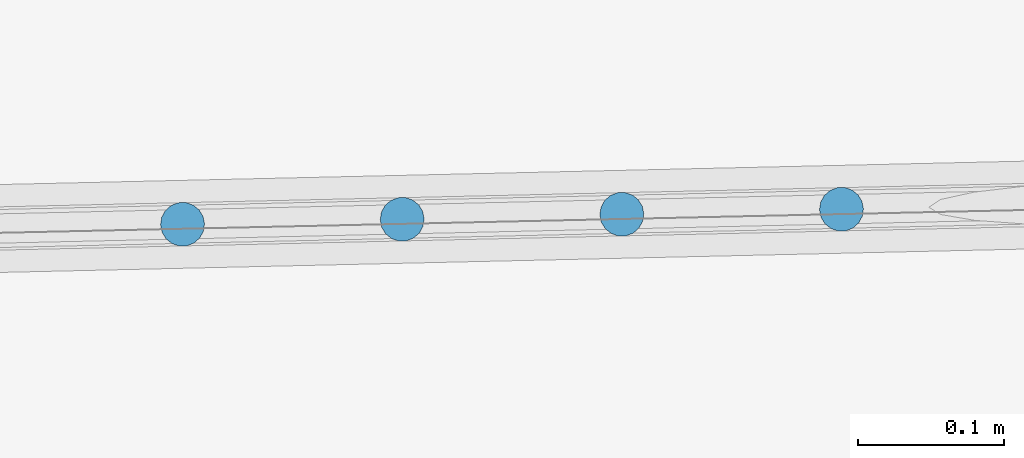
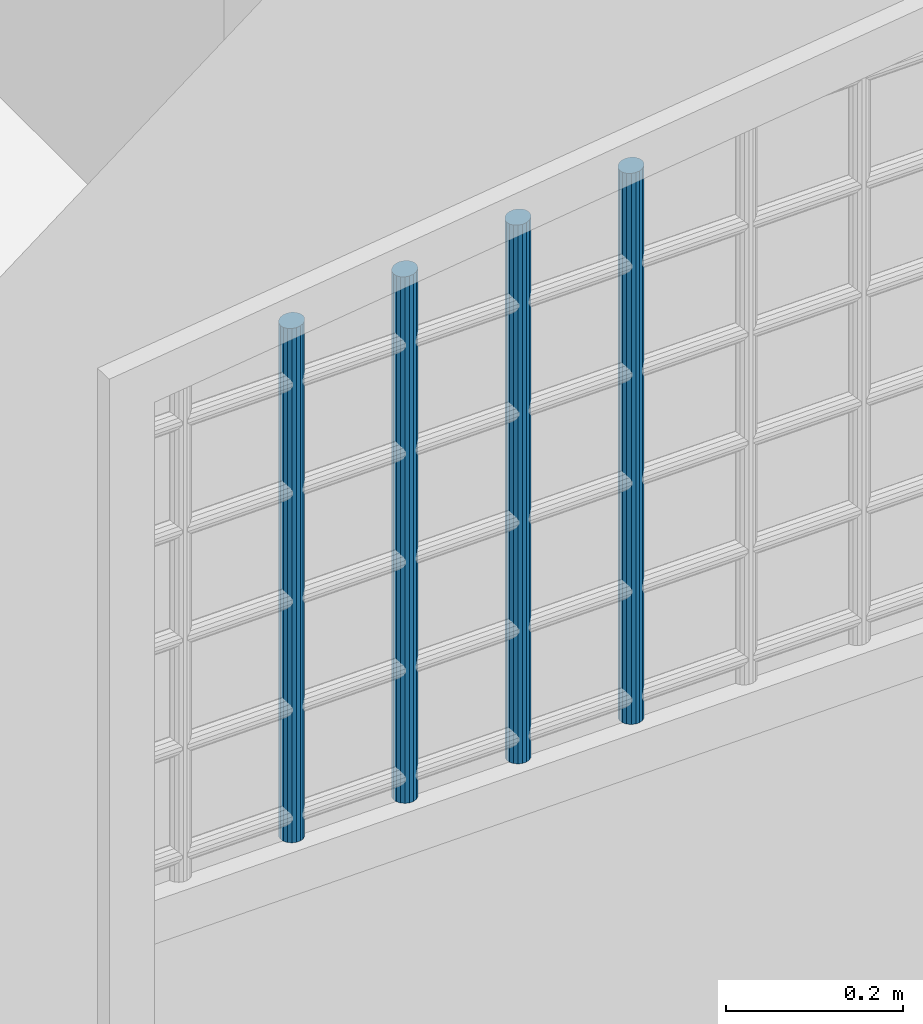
# One storey, part 59 of 133: 4 members, 1 element without a shape of its own.
"""IFC2X3 building model written with IfcOpenShell, lengths in centimetres."""

from ifc_helpers import new_model, entity, si_unit, converted_unit, direction, frame, origin, origin_with_axes, place, context, subcontext, project, spatial, faceted_brep, material, type_object, element, aggregate, save


model = new_model("IFC2X3")

# Units and contexts
model_context = context("Model", 3, precision=0.0001, world=origin(), true_north=direction((0.225632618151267, 0.974212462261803, 0.0)))
body_context = subcontext(model_context, "Body", "Model", "MODEL_VIEW")
ifc_project = project(units=[si_unit("LENGTHUNIT", "METRE", prefix="CENTI"), si_unit("AREAUNIT", "SQUARE_METRE", prefix="CENTI"), si_unit("VOLUMEUNIT", "CUBIC_METRE", prefix="CENTI"), converted_unit("PLANEANGLEUNIT", "DEGREE", entity("IfcRatioMeasure", 0.0174532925), si_unit("PLANEANGLEUNIT", "RADIAN"), dimensions=[0, 0, 0, 0, 0, 0, 0])], contexts=[model_context])

# Site, building, storey
site_placement = place(None, origin_with_axes())
site = spatial("IfcSite", under=ifc_project, at=site_placement, Name="Default Site", CompositionType="ELEMENT")
building_placement = place(site_placement, origin_with_axes())
building = spatial("IfcBuilding", under=site, at=building_placement, Name="Default Building", CompositionType="ELEMENT")
storey_placement = place(building_placement, frame((0.0, 0.0, -291.400371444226), z_axis=(0.0, 0.0, 1.0), x_axis=(1.0, 0.0, 0.0)))
storey = spatial("IfcBuildingStorey", under=building, at=storey_placement, Name="Rez-de-Jardin", CompositionType="ELEMENT", Elevation=-291.400371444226)

# Assembly, members
building_element_proxy_type = type_object("IfcBuildingElementProxyType", Name="Type Object", PredefinedType="NOTDEFINED")
assembly_placement = place(storey_placement, frame((230.29031879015, 209.448968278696, 0.0), z_axis=(0.0, 0.0, 1.0), x_axis=(-0.999739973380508, -0.0228031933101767, 0.0)))
assembly = element("IfcElementAssembly", 1, at=assembly_placement, inside=storey, type_object=building_element_proxy_type, Name="Panneau 76236", ObjectType="Precast panel", PredefinedType="USERDEFINED")
ifc_material = material(Name="Noyer 01")
member_1_placement = place(assembly_placement, frame((55.4095387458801, -2.48696978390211, 153.164994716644), z_axis=(0.112041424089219, 1.62055833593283e-05, 0.993703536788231), x_axis=(0.499207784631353, -0.864653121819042, -0.0562722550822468)))
member_1 = element("IfcMember", 2, at=member_1_placement, material=ifc_material, Name="4294966839", context=body_context, shape_type="Brep", body=[
    faceted_brep([(1.38777878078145e-14, 3.33066907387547e-14, 4.44089209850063e-14), (-0.521771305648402, 2.77555754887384e-14, 9.77919149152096e-06), (-1.01305486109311, -0.179018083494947, 1.89869725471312e-05), (-1.41459542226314, -0.51546324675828, 2.65127639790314e-05), (-1.67796013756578, -0.968753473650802, 3.14488230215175e-05), (-1.77138405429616, -1.48421651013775, 3.31998015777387e-05), (-1.68360087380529, -1.99968316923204, 3.15545433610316e-05), (-1.42519361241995, -2.45297224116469, 2.67113983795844e-05), (-1.02733397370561, -2.78941719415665, 1.92545958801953e-05), (-0.538007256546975, -2.96843356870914, 1.00834904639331e-05), (-0.016235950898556, -2.96843356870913, 3.04299016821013e-07), (0.475050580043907, -2.78941036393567, -8.90353780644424e-06), (0.876591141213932, -2.45296520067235, -1.64293292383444e-05), (1.13995585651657, -1.99967497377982, -2.13653882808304e-05), (1.23337977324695, -1.48421193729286, -2.31163668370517e-05), (1.14559361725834, -0.968750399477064, -2.14710528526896e-05), (0.88718635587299, -0.51546132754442, -1.66279078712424e-05), (0.489326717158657, -0.179016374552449, -9.17110537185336e-06), (4.77287782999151, 7.19605848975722, -75.6426165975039), (5.17131168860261, 6.86060218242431, -75.6527603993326), (5.43137117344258, 6.41015777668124, -75.6819513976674), (5.52168966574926, 5.8990562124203, -75.7266686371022), (5.43137230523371, 5.38894179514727, -75.7815188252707), (5.17131270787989, 4.94134205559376, -75.8398861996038), (4.7728787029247, 4.61024551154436, -75.8947306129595), (4.28412450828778, 4.43558228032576, -75.9394376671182), (3.76400542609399, 4.43842694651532, -75.9686140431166), (3.27525292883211, 4.61843196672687, -75.9787412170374), (2.87681907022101, 4.95388827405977, -75.9685974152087), (2.61675958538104, 5.40433267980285, -75.939406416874), (2.52644406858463, 5.91543936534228, -75.8946885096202), (2.61676142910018, 6.42555378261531, -75.8398383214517), (2.876821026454, 6.87315352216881, -75.7814709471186), (3.2752550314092, 7.20425006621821, -75.7266265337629), (3.76400625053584, 7.37890817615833, -75.6819201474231), (4.28412533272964, 7.37606350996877, -75.6527437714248), (0.489326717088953, -0.179016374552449, -1.28901694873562e-05), (0.887186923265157, -0.515460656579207, -1.65303586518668e-05), (5.17131225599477, 6.86060285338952, -75.6527603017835), (4.77287782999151, 7.19605848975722, -75.6426165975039), (0.88718635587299, -0.51546132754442, -1.66279078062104e-05), (1.14559364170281, -0.968750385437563, -3.1247480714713e-05), (5.43137119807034, 6.41015779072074, -75.6819513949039), (1.14559361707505, -0.968750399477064, -3.12502441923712e-05), (1.23337876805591, -1.48421210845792, -3.04068091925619e-05), (5.52168866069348, 5.89905604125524, -75.7266687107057), (1.23337977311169, -1.48421193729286, -3.03332056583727e-05), (1.13995558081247, -1.99967492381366, -2.23115505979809e-05), (5.43137202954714, 5.38894184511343, -75.7815188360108), (1.13995585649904, -1.99967497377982, -2.23008104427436e-05), (0.876591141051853, -2.45296520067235, -2.50772775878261e-05), (5.1713127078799, 4.94134205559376, -75.8398861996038), (0.87659114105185, -2.45296520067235, -2.50772775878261e-05), (0.475050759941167, -2.78941057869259, -1.12808181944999e-05), (4.77287888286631, 4.61024529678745, -75.8947306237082), (0.475050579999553, -2.78941036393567, -1.1270069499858e-05), (-0.0162369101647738, -2.96843093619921, 3.45904601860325e-08), (4.28412354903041, 4.43558491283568, -75.9394374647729), (-0.0162359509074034, -2.96843356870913, -1.67754898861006e-07), (-0.538007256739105, -2.96843354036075, -1.64990938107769e-07), (3.76400542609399, 4.43842697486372, -75.9686140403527), (-0.538007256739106, -2.96843356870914, -1.67754876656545e-07), (-1.02733367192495, -2.78941636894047, 1.28199687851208e-05), (3.2752532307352, 4.61843279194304, -75.9787411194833), (-1.02733397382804, -2.78941719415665, 1.27224146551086e-05), (-1.42519418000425, -2.45297291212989, 1.63626038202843e-05), (2.87681850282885, 4.95388760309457, -75.9685975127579), (-1.42519361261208, -2.45297224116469, 1.64601529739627e-05), (-1.68360089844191, -1.99968318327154, 3.10797258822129e-05), (2.61675956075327, 5.40433266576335, -75.9394064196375), (2.876819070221, 4.95388827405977, -75.9685974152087), (-1.68360087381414, -1.99968316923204, 3.10824893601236e-05), (-1.77138681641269, -1.48421698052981, 3.06309941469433e-05), (2.52644130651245, 5.91543889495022, -75.8946887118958), (-1.77138405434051, -1.48421651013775, 3.08332697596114e-05), (-1.67795986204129, -0.968753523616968, 2.28116146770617e-05), (2.61676170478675, 6.42555373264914, -75.8398383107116), (-1.67796013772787, -0.968753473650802, 2.28008745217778e-05), (-1.41459542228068, -0.515463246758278, 2.55773416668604e-05), (2.87682102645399, 6.87315352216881, -75.7814709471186), (-1.41459542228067, -0.51546324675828, 2.55773416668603e-05), (-1.01305504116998, -0.179017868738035, 1.17808822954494e-05), (3.27525485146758, 7.20425028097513, -75.7266265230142), (-1.01305486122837, -0.179018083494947, 1.17701336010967e-05), (-0.521771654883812, 9.57911027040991e-07, 7.36289799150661e-08), (3.76400590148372, 7.37890913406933, -75.6819200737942), (3.2752550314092, 7.20425006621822, -75.7266265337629), (-0.521771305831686, 2.77555756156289e-14, 6.66133814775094e-14), (1.23229485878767e-14, -2.8348356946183e-08, -2.76389412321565e-09), (4.28412533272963, 7.37606348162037, -75.6527437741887), (3.76400625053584, 7.37890817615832, -75.6819201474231), (0.489326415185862, -0.179017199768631, -1.29877236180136e-05), (4.77287752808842, 7.19605766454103, -75.6426166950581), (4.28412533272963, 7.37606350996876, -75.6527437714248)], [[[0, 1, 2, 3, 4, 5, 6, 7, 8, 9, 10, 11, 12, 13, 14, 15, 16, 17]], [[18, 19, 20, 21, 22, 23, 24, 25, 26, 27, 28, 29, 30, 31, 32, 33, 34, 35]], [[36, 37, 38, 39]], [[40, 41, 42, 19]], [[43, 44, 45, 20]], [[46, 47, 48, 21]], [[49, 50, 51, 22]], [[52, 53, 54, 23]], [[55, 56, 57, 24]], [[58, 59, 60, 25]], [[61, 62, 63, 26]], [[64, 65, 66, 27]], [[67, 68, 69, 70]], [[71, 72, 73, 29]], [[74, 75, 76, 30]], [[77, 78, 79, 31]], [[80, 81, 82, 32]], [[83, 84, 85, 86]], [[87, 88, 89, 90]], [[0, 91, 92, 93]]]),
])
member_2_placement = place(assembly_placement, frame((70.4095363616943, -2.48696978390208, 151.473581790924), z_axis=(0.112041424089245, 1.62055833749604e-05, 0.993703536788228), x_axis=(0.499207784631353, -0.864653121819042, -0.0562722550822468)))
member_2 = element("IfcMember", 3, at=member_2_placement, material=ifc_material, Name="4294966838", context=body_context, shape_type="Brep", body=[
    faceted_brep([(-1.11022302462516e-14, 6.66133814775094e-14, 4.44089209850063e-14), (-0.521771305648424, 6.66133812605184e-14, 9.7791914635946e-06), (-1.01305486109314, -0.179018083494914, 1.89869724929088e-05), (-1.41459542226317, -0.51546324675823, 2.65127639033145e-05), (-1.67796013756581, -0.968753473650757, 3.14488229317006e-05), (-1.77138405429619, -1.48421651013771, 3.31998014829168e-05), (-1.68359789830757, -1.99967804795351, 3.15544875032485e-05), (-1.42519063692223, -2.45296711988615, 2.67113425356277e-05), (-1.02733099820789, -2.78941207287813, 1.92545400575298e-05), (-0.538004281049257, -2.9684284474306, 1.00834346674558e-05), (-0.0162329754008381, -2.9684284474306, 3.04243248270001e-07), (0.47505058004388, -2.78941036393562, -8.90353778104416e-06), (0.876591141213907, -2.4529652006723, -1.642932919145e-05), (1.13995585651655, -1.99967497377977, -2.1365388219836e-05), (1.23337977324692, -1.48421193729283, -2.31163667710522e-05), (1.14559361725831, -0.968750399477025, -2.14710527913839e-05), (0.88718635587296, -0.515461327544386, -1.66279078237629e-05), (0.489326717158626, -0.179016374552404, -9.17110534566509e-06), (4.67769821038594, 7.03218585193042, -73.9618535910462), (5.07613206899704, 6.6967295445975, -73.9719973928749), (5.33619155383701, 6.24628513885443, -74.0011883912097), (5.4265100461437, 5.73518357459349, -74.0459056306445), (5.33619268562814, 5.22506915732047, -74.100755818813), (5.07613308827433, 4.77746941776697, -74.1591231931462), (4.67769908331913, 4.44637287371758, -74.2139676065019), (4.18894786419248, 4.27171476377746, -74.2586739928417), (3.66882878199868, 4.27455942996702, -74.28785036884), (3.18007628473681, 4.45456445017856, -74.2979775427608), (2.78164242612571, 4.79002075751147, -74.2878337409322), (2.52158294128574, 5.24046516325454, -74.2586427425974), (2.43126444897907, 5.75156672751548, -74.2139255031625), (2.52158180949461, 6.2616811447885, -74.159075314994), (2.78164140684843, 6.70928088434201, -74.1007079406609), (3.18007541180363, 7.0403774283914, -74.0458635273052), (3.66882663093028, 7.21503553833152, -74.0011571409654), (4.18894571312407, 7.21219087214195, -73.971980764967), (0.489326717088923, -0.179016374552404, -1.28901695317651e-05), (0.887186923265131, -0.515460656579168, -1.65303586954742e-05), (5.07613263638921, 6.69673021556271, -73.9719972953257), (4.67769821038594, 7.03218585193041, -73.9618535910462), (0.88718635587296, -0.515461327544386, -1.66279078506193e-05), (1.14559364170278, -0.968750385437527, -3.12474807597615e-05), (5.33619157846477, 6.24628515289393, -74.0011883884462), (1.14559361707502, -0.968750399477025, -3.12502442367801e-05), (1.23337876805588, -1.48421210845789, -3.04068092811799e-05), (5.42650904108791, 5.73518340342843, -74.045905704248), (1.23337977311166, -1.48421193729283, -3.03332057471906e-05), (1.13995558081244, -1.99967492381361, -2.23115506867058e-05), (5.33619240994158, 5.22506920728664, -74.1007558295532), (1.13995585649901, -1.99967497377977, -2.23008105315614e-05), (0.876591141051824, -2.4529652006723, -2.50772776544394e-05), (5.07613308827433, 4.77746941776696, -74.1591231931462), (5.33619268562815, 5.22506915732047, -74.100755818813), (0.876591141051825, -2.4529652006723, -2.50772776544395e-05), (0.475050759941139, -2.78941057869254, -1.12808183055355e-05), (4.67769926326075, 4.44637265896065, -74.2139676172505), (0.475050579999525, -2.78941036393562, -1.12700696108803e-05), (-0.0162326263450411, -2.9684294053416, 4.26435010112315e-07), (4.18894821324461, 4.27171380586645, -74.2586740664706), (4.67769908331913, 4.44637287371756, -74.2139676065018), (-0.0162329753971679, -2.9684284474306, 5.00063923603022e-07), (-0.538004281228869, -2.96842841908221, 5.02827840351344e-07), (3.66882878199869, 4.27455945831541, -74.2878503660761), (4.18894786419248, 4.27171476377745, -74.2586739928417), (-0.538004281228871, -2.9684284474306, 5.00063901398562e-07), (-1.02733069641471, -2.78941124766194, 1.34877875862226e-05), (3.1800765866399, 4.45456527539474, -74.2979774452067), (3.66882878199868, 4.27455942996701, -74.28785036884), (-1.0273309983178, -2.78941207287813, 1.33902334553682e-05), (-1.42519120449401, -2.45296779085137, 1.70304226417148e-05), (2.78164185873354, 4.79002008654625, -74.2878338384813), (3.18007628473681, 4.45456445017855, -74.2979775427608), (-1.42519063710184, -2.45296711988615, 1.71279717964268e-05), (-1.68359792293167, -1.99967806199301, 3.17475447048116e-05), (2.52158291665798, 5.24046514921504, -74.2586427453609), (-1.6835978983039, -1.99967804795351, 3.17503081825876e-05), (-1.77138304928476, -1.48421633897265, 3.090687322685e-05), (2.43126545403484, 5.75156689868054, -74.213925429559), (-1.77138405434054, -1.48421651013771, 3.0833269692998e-05), (-1.67795986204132, -0.968753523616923, 2.28116146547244e-05), (2.52158208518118, 6.26168109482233, -74.1590753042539), (2.43126444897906, 5.75156672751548, -74.2139255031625), (-1.67796013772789, -0.968753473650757, 2.28008744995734e-05), (-1.4145954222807, -0.515463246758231, 2.55773416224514e-05), (-1.4145954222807, -0.51546324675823, 2.55773416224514e-05), (-1.01305504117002, -0.179017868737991, 1.17808822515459e-05), (3.18007523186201, 7.04037764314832, -74.0458635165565), (-1.0130548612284, -0.179018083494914, 1.17701335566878e-05), (-0.521771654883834, 9.57911063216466e-07, 7.36289353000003e-08), (3.66882628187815, 7.21503649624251, -74.0011570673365), (-0.521771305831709, 6.66133814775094e-14, 2.22044604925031e-14), (-1.2657069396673e-14, -2.83483224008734e-08, -2.76389400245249e-09), (4.18894571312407, 7.21219084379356, -73.971980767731), (0.48932641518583, -0.179017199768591, -1.29877236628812e-05), (4.67769790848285, 7.03218502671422, -73.9618536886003)], [[[0, 1, 2, 3, 4, 5, 6, 7, 8, 9, 10, 11, 12, 13, 14, 15, 16, 17]], [[18, 19, 20, 21, 22, 23, 24, 25, 26, 27, 28, 29, 30, 31, 32, 33, 34, 35]], [[36, 37, 38, 39]], [[40, 41, 42, 19]], [[43, 44, 45, 20]], [[46, 47, 48, 21]], [[49, 50, 51, 52]], [[53, 54, 55, 51]], [[56, 57, 58, 59]], [[60, 61, 62, 63]], [[64, 65, 66, 67]], [[68, 69, 70, 71]], [[72, 73, 74, 28]], [[75, 76, 77, 29]], [[78, 79, 80, 81]], [[82, 83, 32, 31]], [[84, 85, 86, 32]], [[87, 88, 89, 33]], [[90, 91, 92, 34]], [[0, 93, 94, 35]]]),
])
member_3_placement = place(assembly_placement, frame((85.409539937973, -2.48696978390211, 149.782168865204), z_axis=(0.112041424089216, 1.62055833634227e-05, 0.993703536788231), x_axis=(0.499207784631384, -0.864653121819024, -0.0562722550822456)))
member_3 = element("IfcMember", 4, at=member_3_placement, material=ifc_material, Name="4294966837", context=body_context, shape_type="Brep", body=[
    faceted_brep([(-4.9960036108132e-14, 4.44089209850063e-14, 2.22044604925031e-14), (-0.521771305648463, 4.44089212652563e-14, 9.7791914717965e-06), (-1.01305486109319, -0.179018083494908, 1.89869725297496e-05), (-1.41459839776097, -0.515468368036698, 2.65128197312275e-05), (-1.67796311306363, -0.96875859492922, 3.14488787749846e-05), (-1.77138702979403, -1.48422163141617, 3.31998573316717e-05), (-1.68360087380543, -1.99968316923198, 3.15545433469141e-05), (-1.4251936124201, -2.45297224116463, 2.67113983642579e-05), (-1.02733397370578, -2.78941719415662, 1.92545958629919e-05), (-0.538007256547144, -2.96843356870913, 1.00834904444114e-05), (-0.0162359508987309, -2.96843356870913, 3.04298994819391e-07), (0.475047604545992, -2.78941548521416, -8.90348206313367e-06), (0.876588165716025, -2.45297032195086, -1.64292734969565e-05), (1.13995288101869, -1.99968009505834, -2.13653325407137e-05), (1.23337977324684, -1.4842119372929, -2.31163668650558e-05), (1.14559361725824, -0.968750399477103, -2.14710528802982e-05), (0.88718635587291, -0.515461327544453, -1.6627907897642e-05), (0.489326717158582, -0.179016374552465, -9.171105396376e-06), (4.58251859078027, 6.86831321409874, -72.281090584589), (4.98095244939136, 6.53285690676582, -72.2912343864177), (5.24101193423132, 6.08241250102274, -72.3204253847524), (5.33133042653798, 5.5713109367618, -72.3651426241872), (5.24101009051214, 5.06119139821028, -72.4199934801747), (4.9809504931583, 4.61359165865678, -72.4783608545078), (4.5825164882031, 4.28249511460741, -72.5332052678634), (4.09376526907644, 4.1078370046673, -72.5779116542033), (3.57364618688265, 4.11068167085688, -72.6070880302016), (3.08489368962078, 4.29068669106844, -72.6172152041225), (2.68645983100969, 4.62614299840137, -72.6070714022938), (2.42640034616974, 5.07658740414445, -72.577880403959), (2.33608185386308, 5.5876889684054, -72.5331631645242), (2.42639921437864, 6.09780338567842, -72.4783129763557), (2.68645881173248, 6.54540312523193, -72.4199456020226), (3.08489579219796, 6.87650479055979, -72.365100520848), (3.57364701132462, 7.05116290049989, -72.3203941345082), (4.0937660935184, 7.04831823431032, -72.2912177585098), (0.489326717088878, -0.179016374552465, -1.28901695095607e-05), (0.887186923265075, -0.515460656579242, -1.65303586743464e-05), (4.98095301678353, 6.53285757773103, -72.2912342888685), (4.58251859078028, 6.86831321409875, -72.281090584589), (0.88718635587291, -0.515461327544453, -1.66279078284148e-05), (1.14559364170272, -0.9687503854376, -3.12474807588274e-05), (5.24101195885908, 6.08241251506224, -72.3204253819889), (4.98095244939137, 6.53285690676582, -72.2912343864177), (1.14559361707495, -0.968750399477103, -3.12502442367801e-05), (1.23337876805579, -1.48421210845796, -3.04068092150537e-05), (5.3313294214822, 5.57131076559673, -72.3651426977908), (1.23337977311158, -1.4842119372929, -3.03332056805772e-05), (1.13995460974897, -1.99968040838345, -2.29012806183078e-05), (5.24101181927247, 5.06119108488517, -72.4199934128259), (1.13995288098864, -1.99968009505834, -2.29686293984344e-05), (0.876588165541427, -2.45297032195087, -2.57450965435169e-05), (0.876588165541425, -2.45297032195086, -2.57450965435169e-05), (0.475047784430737, -2.78941569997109, -1.19486371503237e-05), (4.58251666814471, 4.28249489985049, -72.5332052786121), (0.475047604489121, -2.78941548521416, -1.19378884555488e-05), (-0.0162356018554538, -2.96843452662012, -2.41383834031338e-07), (4.09376561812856, 4.10783604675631, -72.5779117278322), (-0.0162359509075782, -2.96843356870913, -1.67754921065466e-07), (-0.538007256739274, -2.96843354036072, -1.64990959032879e-07), (3.57364618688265, 4.11068169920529, -72.6070880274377), (4.09376526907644, 4.10783700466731, -72.5779116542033), (-0.538007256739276, -2.96843356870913, -1.67754898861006e-07), (-1.02733367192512, -2.78941636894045, 1.28199687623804e-05), (3.08489399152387, 4.29068751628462, -72.6172151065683), (-1.0273339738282, -2.78941719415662, 1.27224146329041e-05), (-1.4251941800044, -2.45297291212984, 1.63626037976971e-05), (2.68645926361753, 4.62614232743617, -72.6070714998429), (3.08489368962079, 4.29068669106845, -72.6172152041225), (-1.42519361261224, -2.45297224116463, 1.64601529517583e-05), (-1.68360089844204, -1.99968318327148, 3.10797258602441e-05), (2.42640032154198, 5.07658739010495, -72.5778804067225), (2.6864598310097, 4.62614299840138, -72.6070714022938), (-1.68360087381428, -1.99968316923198, 3.10824893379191e-05), (-1.77138602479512, -1.48422146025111, 3.02390543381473e-05), (2.33608285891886, 5.58768913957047, -72.5331630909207), (-1.7713870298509, -1.48422163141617, 3.01654508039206e-05), (-1.67796283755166, -0.968758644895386, 2.21437957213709e-05), (2.42639949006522, 6.09780333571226, -72.4783129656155), (-1.67796311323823, -0.96875859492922, 2.2133055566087e-05), (-1.41459839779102, -0.515468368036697, 2.49095227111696e-05), (2.42639921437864, 6.09780338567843, -72.4783129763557), (-1.41459839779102, -0.515468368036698, 2.49095227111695e-05), (-1.01305373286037, -0.179019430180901, 1.17027312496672e-05), (3.08489692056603, 6.8765034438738, -72.3651005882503), (-1.01305486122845, -0.179018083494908, 1.17701335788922e-05), (-0.521771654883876, 9.57911050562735e-07, 7.36289360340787e-08), (3.57364666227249, 7.05116385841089, -72.3203940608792), (3.08489579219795, 6.8765047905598, -72.365100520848), (-0.521771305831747, 4.44089209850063e-14, 2.22044604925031e-14), (-5.15148772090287e-14, -2.83483613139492e-08, -2.7639178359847e-09), (4.0937660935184, 7.04831820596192, -72.2912177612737), (0.489326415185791, -0.179017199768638, -1.2987723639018e-05), (4.58251828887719, 6.86831238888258, -72.2810906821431), (4.09376609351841, 7.04831823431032, -72.2912177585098)], [[[0, 1, 2, 3, 4, 5, 6, 7, 8, 9, 10, 11, 12, 13, 14, 15, 16, 17]], [[18, 19, 20, 21, 22, 23, 24, 25, 26, 27, 28, 29, 30, 31, 32, 33, 34, 35]], [[36, 37, 38, 39]], [[40, 41, 42, 43]], [[44, 45, 46, 20]], [[47, 48, 49, 21]], [[50, 51, 23, 22]], [[52, 53, 54, 23]], [[55, 56, 57, 24]], [[58, 59, 60, 61]], [[62, 63, 64, 26]], [[65, 66, 67, 68]], [[69, 70, 71, 72]], [[73, 74, 75, 29]], [[76, 77, 78, 30]], [[79, 80, 32, 81]], [[82, 83, 84, 32]], [[85, 86, 87, 88]], [[89, 90, 91, 34]], [[0, 92, 93, 94]]]),
])
member_4_placement = place(assembly_placement, frame((100.409543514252, -2.48696978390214, 148.090744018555), z_axis=(0.112052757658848, -3.42476474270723e-06, 0.993702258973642), x_axis=(0.499207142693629, -0.864652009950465, -0.0562950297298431)))
member_4 = element("IfcMember", 5, at=member_4_placement, material=ifc_material, Name="4294966836", context=body_context, shape_type="Brep", body=[
    faceted_brep([(-6.66133814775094e-14, 5.55111512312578e-14, 4.44089209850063e-14), (-0.521771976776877, 4.44089209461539e-14, -2.06666522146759e-06), (-1.01305890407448, -0.17902211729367, -4.01258350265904e-06), (-1.41460021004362, -0.515466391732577, -5.60303202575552e-06), (-1.67796592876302, -0.968756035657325, -6.64618652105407e-06), (-1.77139098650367, -1.48421886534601, -7.01623000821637e-06), (-1.68360894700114, -1.99968571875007, -6.66853772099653e-06), (-1.42520268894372, -2.45297536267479, -5.64502695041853e-06), (-1.02734081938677, -2.78941607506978, -4.0691521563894e-06), (-0.538017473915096, -2.96843865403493, -2.13101134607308e-06), (-0.0162461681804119, -2.96843980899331, -6.43487380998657e-08), (0.475040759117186, -2.78941769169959, 1.88156954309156e-06), (0.876582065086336, -2.45297341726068, 3.47201806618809e-06), (1.13994778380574, -1.99968377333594, 4.51517256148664e-06), (1.23337284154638, -1.48422094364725, 4.8852160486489e-06), (1.14559080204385, -0.968754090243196, 4.53752376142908e-06), (0.887185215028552, -0.515463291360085, 3.51401564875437e-06), (0.489322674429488, -0.179023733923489, 1.93813819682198e-06), (4.48895301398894, 6.70442436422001, -70.6002145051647), (4.88738933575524, 6.36897229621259, -70.6103485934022), (5.14744848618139, 5.91852731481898, -70.639533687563), (5.23776388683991, 5.40742042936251, -70.6842495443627), (5.14744664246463, 4.89730621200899, -70.7391017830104), (4.8873873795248, 4.44970704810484, -70.7974750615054), (4.48895388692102, 4.1186113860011, -70.8523285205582), (4.00020032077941, 3.94394923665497, -70.8970466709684), (3.48008190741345, 3.94679505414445, -70.9262348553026), (2.99133301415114, 4.12680627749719, -70.9363724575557), (2.59289669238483, 4.46225834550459, -70.9262383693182), (2.33283754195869, 4.91270332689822, -70.8970532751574), (2.24252214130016, 5.42381021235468, -70.8523374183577), (2.33283938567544, 5.9339244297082, -70.79748517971), (2.59289864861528, 6.38152359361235, -70.739111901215), (2.99133214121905, 6.71261925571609, -70.6842584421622), (3.48008570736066, 6.88728140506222, -70.6395402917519), (4.00020412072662, 6.88443558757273, -70.6103521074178), (0.489322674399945, -0.179023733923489, 9.39705602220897e-06), (0.88718201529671, -0.51546707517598, 2.96382696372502e-06), (4.8873861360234, 6.3689685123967, -70.6103491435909), (4.48895301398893, 6.70442436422, -70.6002145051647), (0.887185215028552, -0.515463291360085, 3.51401565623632e-06), (1.14559082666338, -0.968754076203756, 6.6069530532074e-06), (5.1474485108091, 5.91852732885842, -70.639533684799), (1.14559080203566, -0.968754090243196, 6.60418901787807e-06), (1.23337560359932, -1.48422047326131, 9.0486974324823e-06), (5.23776664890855, 5.40742089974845, -70.6842493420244), (1.23337284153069, -1.48422094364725, 8.84635911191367e-06), (1.13994750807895, -1.99968372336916, 1.47469858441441e-05), (5.14744636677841, 4.89730626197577, -70.7391017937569), (1.13994778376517, -1.99968377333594, 1.47577322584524e-05), (0.876582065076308, -2.45297341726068, 6.00205158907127e-06), (4.8873873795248, 4.44970704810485, -70.7974750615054), (0.876582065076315, -2.45297341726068, 6.0020515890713e-06), (0.475040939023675, -2.78941790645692, 1.06822751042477e-05), (4.48895406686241, 4.11861117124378, -70.8523285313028), (0.475040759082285, -2.78941769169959, 1.06930197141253e-05), (-0.0162471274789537, -2.96843717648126, 1.08439028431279e-05), (4.00019936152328, 3.94395186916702, -70.8970464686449), (-0.0162461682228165, -2.96843980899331, 1.06415792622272e-05), (-0.538017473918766, -2.96843862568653, -1.20151082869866e-06), (3.48008190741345, 3.94679508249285, -70.9262348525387), (-0.538017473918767, -2.96843865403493, -1.2042747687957e-06), (-1.02734252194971, -2.78942072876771, 6.94340520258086e-07), (2.99133131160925, 4.12680162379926, -70.9363730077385), (-1.02734081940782, -2.78941607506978, 1.24452328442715e-06), (-1.42519948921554, -2.45297157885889, -4.16810168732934e-06), (2.59289989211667, 4.46226212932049, -70.9262378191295), (2.99133301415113, 4.12680627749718, -70.9363724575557), (-1.42520268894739, -2.45297536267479, -4.7182903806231e-06), (-1.68360897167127, -1.99968573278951, 4.03462625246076e-06), (2.33283751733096, 4.91270331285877, -70.8970532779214), (2.59289669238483, 4.46225834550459, -70.9262383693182), (-1.68360894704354, -1.99968571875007, 4.03739028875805e-06), (-1.7713937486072, -1.48421933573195, 1.59288187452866e-06), (2.24251937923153, 5.42380974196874, -70.852337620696), (-1.77139098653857, -1.48421886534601, 1.79522019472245e-06), (-1.67796565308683, -0.9687560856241, -4.10540653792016e-06), (2.33283966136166, 5.93392437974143, -70.7974851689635), (2.24252214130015, 5.42381021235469, -70.8523374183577), (-1.67796592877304, -0.968756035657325, -4.11615295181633e-06), (-1.41460021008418, -0.515466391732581, 4.63952771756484e-06), (2.33283938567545, 5.9339244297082, -70.79748517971), (-1.41460021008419, -0.515466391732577, 4.63952771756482e-06), (-1.01305908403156, -0.179021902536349, -4.06957978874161e-08), (2.99133196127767, 6.71261947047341, -70.6842584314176), (-1.01305890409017, -0.17902211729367, -5.14404074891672e-08), (-0.521771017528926, -2.63251200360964e-06, -2.02323536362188e-07), (3.4800866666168, 6.88727877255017, -70.6395404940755), (2.99133214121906, 6.71261925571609, -70.6842584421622), (-0.521771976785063, 4.44089209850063e-14, 4.44089209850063e-14), (-6.81682186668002e-14, -2.83483382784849e-08, -2.76389446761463e-09), (4.00020412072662, 6.88443555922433, -70.6103521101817), (3.48008570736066, 6.88728140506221, -70.639540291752), (0.489324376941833, -0.179019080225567, 9.94723878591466e-06), (4.48895471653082, 6.70442901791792, -70.6002139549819)], [[[0, 1, 2, 3, 4, 5, 6, 7, 8, 9, 10, 11, 12, 13, 14, 15, 16, 17]], [[18, 19, 20, 21, 22, 23, 24, 25, 26, 27, 28, 29, 30, 31, 32, 33, 34, 35]], [[36, 37, 38, 39]], [[40, 41, 42, 19]], [[43, 44, 45, 20]], [[46, 47, 48, 21]], [[49, 50, 51, 22]], [[52, 53, 54, 23]], [[55, 56, 57, 24]], [[58, 59, 60, 25]], [[61, 62, 63, 26]], [[64, 65, 66, 67]], [[68, 69, 70, 71]], [[72, 73, 74, 29]], [[75, 76, 77, 78]], [[79, 80, 32, 81]], [[82, 83, 84, 32]], [[85, 86, 87, 88]], [[89, 90, 91, 92]], [[0, 93, 94, 35]]]),
])
aggregate(assembly, [member_1, member_2, member_3, member_4])

save(model, "model.ifc")
